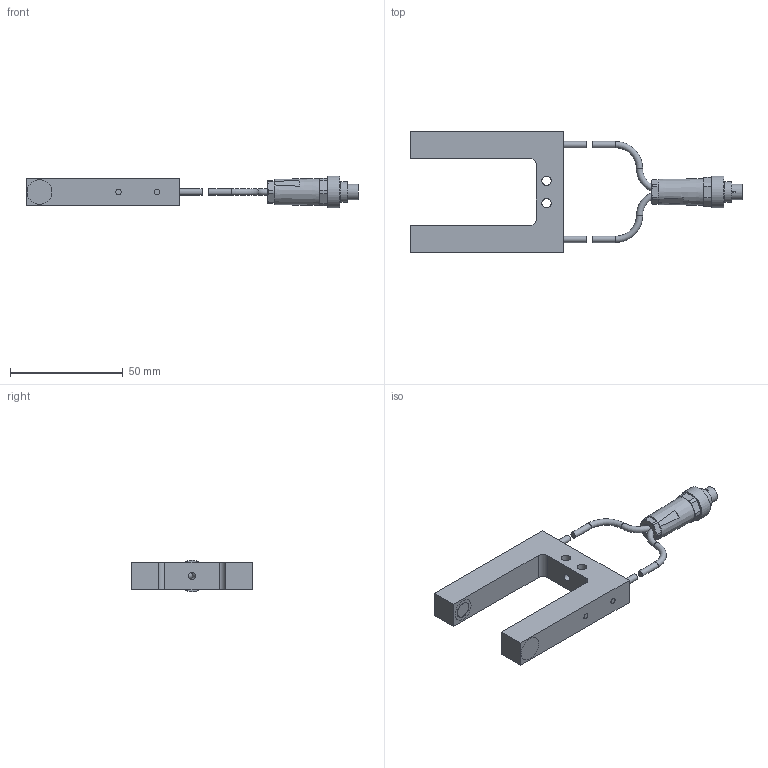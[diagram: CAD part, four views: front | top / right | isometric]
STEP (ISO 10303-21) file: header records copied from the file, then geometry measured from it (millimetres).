
FILE_DESCRIPTION(/* description */ (''),/* implementation_level */ '2;1');
FILE_NAME(/* name */ 'H:\ZVW\Inventor\E-Mail-Zeichnungen\STEP\HOMEPAGE\A-LAS-F12-...-30_60-C_0720_00.stp',/* time_stamp */ '2014-08-18T14:55:47+02:00',/* author */ ('TK-01'),/* organization */ (''),/* preprocessor_version */ 'ST-DEVELOPER v15.2',/* originating_system */ 'Autodesk Inventor 2014',/* authorisation */ '');
FILE_SCHEMA (('AUTOMOTIVE_DESIGN { 1 0 10303 214 3 1 1 }'));
Length unit declared in the file: millimetre
Products named in the file (1): Bauteil8
Bounding box: 147.1 x 54.02 x 14 mm (x, y, z)
Volume: 98399.8 mm3; surface area: 38099 mm2
Topology: 8 solids, 12 shells, 160 faces, 352 edges, 232 vertices
Faces by surface type: plane 72, cylinder 60, cone 11, sphere 9, torus 6, bspline 2
Full cylindrical faces by diameter (mm): 0.5 x7, 2.5 x8, 2.8 x4, 2.9 x2, 3.2 x1, 4.1 x2, 5.5 x1, 6 x1, 6.8 x1, 7.1 x1, 7.15 x2, 7.5 x1, 8 x1, 9 x2, 10 x2, 14 x1
Entity records: 4370 total; most frequent: CARTESIAN_POINT 933, DIRECTION 708, ORIENTED_EDGE 544, AXIS2_PLACEMENT_3D 310, EDGE_CURVE 268, EDGE_LOOP 250, VERTEX_POINT 204, ADVANCED_FACE 160
